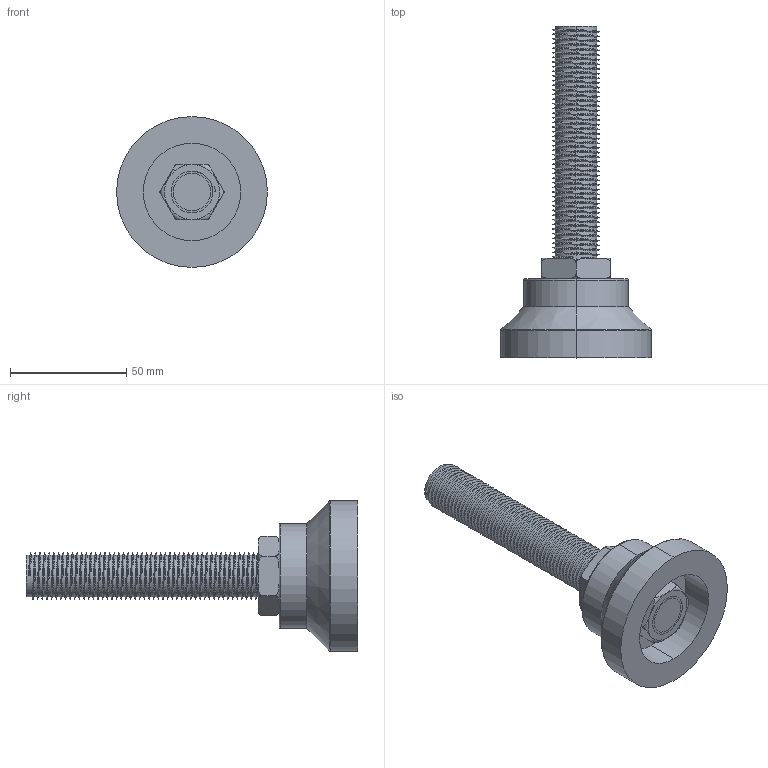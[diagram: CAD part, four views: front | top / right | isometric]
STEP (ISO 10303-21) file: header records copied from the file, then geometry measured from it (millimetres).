
FILE_DESCRIPTION (( 'STEP AP203' ), '1' );
FILE_NAME ('L6016100.STEP', '2018-01-16T02:02:08', ( '' ), ( '' ), 'SwSTEP 2.0', 'SolidWorks 2014', '' );
FILE_SCHEMA (( 'CONFIG_CONTROL_DESIGN' ));
Length unit declared in the file: millimetre
Products named in the file (6): 套筒H20.; L6016100; 底座H34; 螺桿M16XL100XP2; 螺帽M16; 墊片D20T3
Assembly tree (5 placements, depth 2):
  L6016100
    底座H34
    墊片D20T3
    套筒H20.
    螺桿M16XL100XP2
    螺帽M16
Bounding box: 65 x 143 x 65 mm (x, y, z)
Volume: 103203 mm3; surface area: 35521.6 mm2
Topology: 5 solids, 5 shells, 207 faces, 569 edges, 376 vertices
Faces by surface type: cylinder 150, plane 29, torus 22, bspline 4, cone 2
Entity records: 16630 total; most frequent: CARTESIAN_POINT 11535, ORIENTED_EDGE 1138, DIRECTION 763, EDGE_CURVE 569, VERTEX_POINT 376, AXIS2_PLACEMENT_3D 291, EDGE_LOOP 219, ADVANCED_FACE 207
